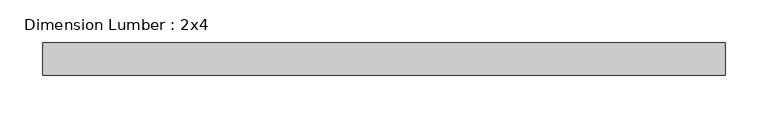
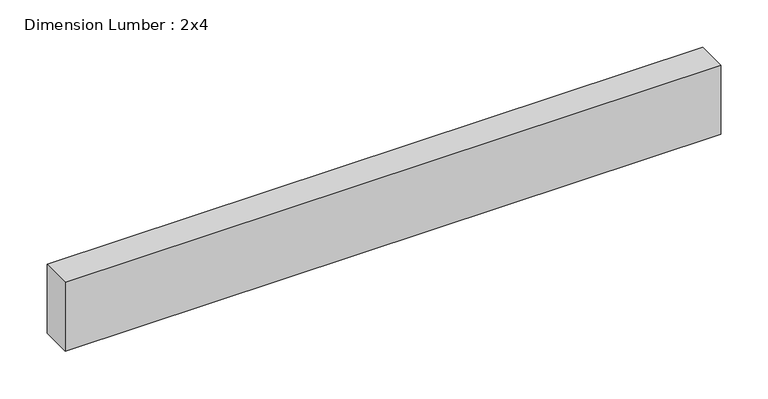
"""IFC4 building model written with IfcOpenShell, lengths in millimetres: beam geometry, Dimension Lumber : 2x4."""

from ifc_helpers import new_model, si_unit, frame, origin, place, context, project, spatial, polyline, outline, extrude, source, transform, mapped, element, save


def dimension_lumber_2x4_f113187e(model_context):
    return source(origin(), model_context, "Body", "SweptSolid", [
        extrude(outline(polyline([(399.6529134, 19.05), (399.6529134, -19.05), (-399.6529134, -19.05), (-399.6529134, 19.05), (399.6529134, 19.05)])), frame((0.0, 0.0, -44.45), z_axis=(0.0, 0.0, 1.0), x_axis=(1.0, 0.0, 0.0)), (0.0, 0.0, 1.0), 88.9),
    ])


if __name__ == "__main__":
    model = new_model("IFC4")
    model_context = context("Model", 3, world=origin())
    ifc_project = project(units=[si_unit("LENGTHUNIT", "METRE", prefix="MILLI")], contexts=[model_context])
    site = spatial("IfcSite", under=ifc_project)
    building = spatial("IfcBuilding", under=site)
    placement = place(None, origin())
    dimension_lumber_2x4_shape = dimension_lumber_2x4_f113187e(model_context)
    element("IfcBeam", 1, ObjectType="Dimension Lumber : 2x4", at=placement, inside=building, context=model_context, shape_type="MappedRepresentation", body=[
        mapped(dimension_lumber_2x4_shape, transform((0.0, 0.0, 0.0), x_axis=(1.0, 0.0, 0.0), y_axis=(0.0, 1.0, 0.0), z_axis=(0.0, 0.0, 1.0))),
    ])
    save(model, "model.ifc")
